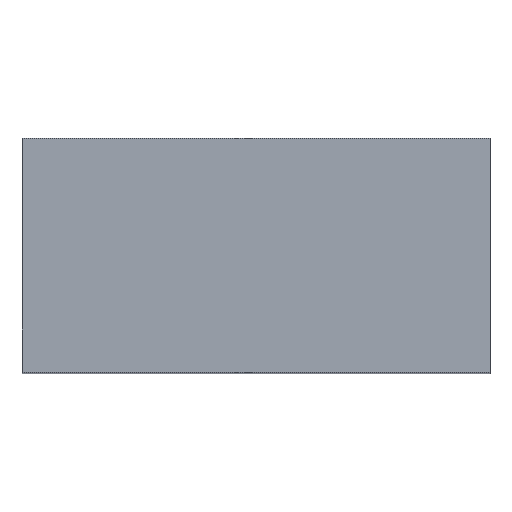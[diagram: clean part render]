
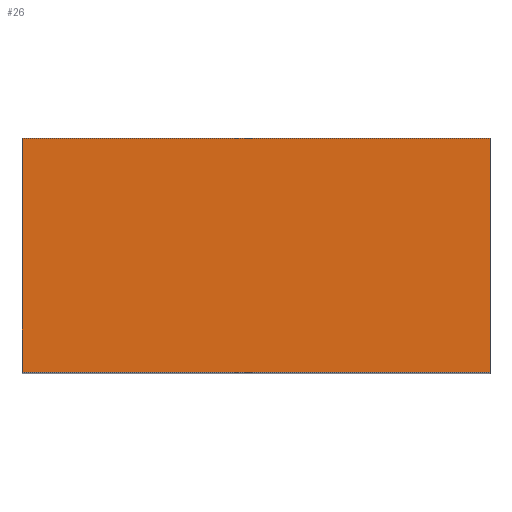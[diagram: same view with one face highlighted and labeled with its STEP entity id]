
A CAD part, top view. The second image highlights one B-rep face of the part: STEP entity #26.
In plain terms, the highlighted planar face has unit normal (0, 0, 1).
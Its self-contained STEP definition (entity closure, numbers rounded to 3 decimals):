
#26=ADVANCED_FACE('',(#32),#184,.T.);
#32=FACE_OUTER_BOUND('',#38,.T.);
#38=EDGE_LOOP('',(#50,#51,#52,#53));
#50=ORIENTED_EDGE('',*,*,#133,.T.);
#51=ORIENTED_EDGE('',*,*,#134,.T.);
#52=ORIENTED_EDGE('',*,*,#135,.T.);
#53=ORIENTED_EDGE('',*,*,#131,.F.);
#72=PCURVE('',#183,#96);
#74=PCURVE('',#184,#98);
#75=PCURVE('',#184,#99);
#76=PCURVE('',#184,#100);
#77=PCURVE('',#184,#101);
#80=PCURVE('',#185,#104);
#84=PCURVE('',#186,#108);
#87=PCURVE('',#187,#111);
#96=DEFINITIONAL_REPRESENTATION('',(#150),#313);
#98=DEFINITIONAL_REPRESENTATION('',(#154),#313);
#99=DEFINITIONAL_REPRESENTATION('',(#156),#313);
#100=DEFINITIONAL_REPRESENTATION('',(#158),#313);
#101=DEFINITIONAL_REPRESENTATION('',(#159),#313);
#104=DEFINITIONAL_REPRESENTATION('',(#162),#313);
#108=DEFINITIONAL_REPRESENTATION('',(#167),#313);
#111=DEFINITIONAL_REPRESENTATION('',(#171),#313);
#119=SURFACE_CURVE('',#149,(#72,#77),.PCURVE_S1.);
#121=SURFACE_CURVE('',#153,(#74,#87),.PCURVE_S1.);
#122=SURFACE_CURVE('',#155,(#75,#84),.PCURVE_S1.);
#123=SURFACE_CURVE('',#157,(#76,#80),.PCURVE_S1.);
#131=EDGE_CURVE('',#175,#179,#119,.T.);
#133=EDGE_CURVE('',#175,#181,#121,.T.);
#134=EDGE_CURVE('',#181,#180,#122,.T.);
#135=EDGE_CURVE('',#180,#179,#123,.T.);
#149=B_SPLINE_CURVE_WITH_KNOTS('',1,(#262,#263),.UNSPECIFIED.,.F.,.F.,(2,
2),(-3280.,-3240.),.UNSPECIFIED.);
#150=B_SPLINE_CURVE_WITH_KNOTS('',1,(#264,#265),.UNSPECIFIED.,.F.,.F.,(2,
2),(-3280.,-3240.),.UNSPECIFIED.);
#153=B_SPLINE_CURVE_WITH_KNOTS('',1,(#270,#271),.UNSPECIFIED.,.F.,.F.,(2,
2),(0.,1600.),.UNSPECIFIED.);
#154=B_SPLINE_CURVE_WITH_KNOTS('',1,(#272,#273),.UNSPECIFIED.,.F.,.F.,(2,
2),(0.,1600.),.UNSPECIFIED.);
#155=B_SPLINE_CURVE_WITH_KNOTS('',1,(#274,#275),.UNSPECIFIED.,.F.,.F.,(2,
2),(1600.,1640.),.UNSPECIFIED.);
#156=B_SPLINE_CURVE_WITH_KNOTS('',1,(#276,#277),.UNSPECIFIED.,.F.,.F.,(2,
2),(1600.,1640.),.UNSPECIFIED.);
#157=B_SPLINE_CURVE_WITH_KNOTS('',1,(#278,#279),.UNSPECIFIED.,.F.,.F.,(2,
2),(1640.,3240.),.UNSPECIFIED.);
#158=B_SPLINE_CURVE_WITH_KNOTS('',1,(#280,#281),.UNSPECIFIED.,.F.,.F.,(2,
2),(1640.,3240.),.UNSPECIFIED.);
#159=B_SPLINE_CURVE_WITH_KNOTS('',1,(#282,#283),.UNSPECIFIED.,.F.,.F.,(2,
2),(-3280.,-3240.),.UNSPECIFIED.);
#162=B_SPLINE_CURVE_WITH_KNOTS('',1,(#288,#289),.UNSPECIFIED.,.F.,.F.,(2,
2),(1640.,3240.),.UNSPECIFIED.);
#167=B_SPLINE_CURVE_WITH_KNOTS('',1,(#298,#299),.UNSPECIFIED.,.F.,.F.,(2,
2),(1600.,1640.),.UNSPECIFIED.);
#171=B_SPLINE_CURVE_WITH_KNOTS('',1,(#306,#307),.UNSPECIFIED.,.F.,.F.,(2,
2),(0.,1600.),.UNSPECIFIED.);
#175=VERTEX_POINT('',#233);
#179=VERTEX_POINT('',#237);
#180=VERTEX_POINT('',#238);
#181=VERTEX_POINT('',#239);
#183=PLANE('',#209);
#184=PLANE('',#210);
#185=PLANE('',#211);
#186=PLANE('',#212);
#187=PLANE('',#213);
#209=AXIS2_PLACEMENT_3D('',#227,#218,$);
#210=AXIS2_PLACEMENT_3D('',#228,#219,$);
#211=AXIS2_PLACEMENT_3D('',#229,#220,$);
#212=AXIS2_PLACEMENT_3D('',#230,#221,$);
#213=AXIS2_PLACEMENT_3D('',#231,#222,$);
#218=DIRECTION('',(-1.,0.,0.));
#219=DIRECTION('',(0.,0.,1.));
#220=DIRECTION('',(0.,1.,0.));
#221=DIRECTION('',(1.,0.,0.));
#222=DIRECTION('',(0.,-1.,0.));
#227=CARTESIAN_POINT('',(-20.,-585.,60.));
#228=CARTESIAN_POINT('',(-20.,-585.,140.));
#229=CARTESIAN_POINT('',(-20.,-565.,60.));
#230=CARTESIAN_POINT('',(20.,-565.,60.));
#231=CARTESIAN_POINT('',(20.,-585.,60.));
#233=CARTESIAN_POINT('',(-20.,-585.,140.));
#237=CARTESIAN_POINT('',(-20.,-565.,140.));
#238=CARTESIAN_POINT('',(20.,-565.,140.));
#239=CARTESIAN_POINT('',(20.,-585.,140.));
#262=CARTESIAN_POINT('',(-20.,-585.,140.));
#263=CARTESIAN_POINT('',(-20.,-565.,140.));
#264=CARTESIAN_POINT('',(80.,-3280.));
#265=CARTESIAN_POINT('',(80.,-3240.));
#270=CARTESIAN_POINT('',(-20.,-585.,140.));
#271=CARTESIAN_POINT('',(20.,-585.,140.));
#272=CARTESIAN_POINT('',(0.,0.));
#273=CARTESIAN_POINT('',(1600.,0.));
#274=CARTESIAN_POINT('',(20.,-585.,140.));
#275=CARTESIAN_POINT('',(20.,-565.,140.));
#276=CARTESIAN_POINT('',(1600.,0.));
#277=CARTESIAN_POINT('',(1600.,40.));
#278=CARTESIAN_POINT('',(20.,-565.,140.));
#279=CARTESIAN_POINT('',(-20.,-565.,140.));
#280=CARTESIAN_POINT('',(1600.,40.));
#281=CARTESIAN_POINT('',(0.,40.));
#282=CARTESIAN_POINT('',(0.,0.));
#283=CARTESIAN_POINT('',(0.,40.));
#288=CARTESIAN_POINT('',(80.,-1640.));
#289=CARTESIAN_POINT('',(80.,-3240.));
#298=CARTESIAN_POINT('',(80.,-1600.));
#299=CARTESIAN_POINT('',(80.,-1640.));
#306=CARTESIAN_POINT('',(80.,0.));
#307=CARTESIAN_POINT('',(80.,-1600.));
#313=(
GEOMETRIC_REPRESENTATION_CONTEXT(2)
PARAMETRIC_REPRESENTATION_CONTEXT()
REPRESENTATION_CONTEXT('pspace','')
);
